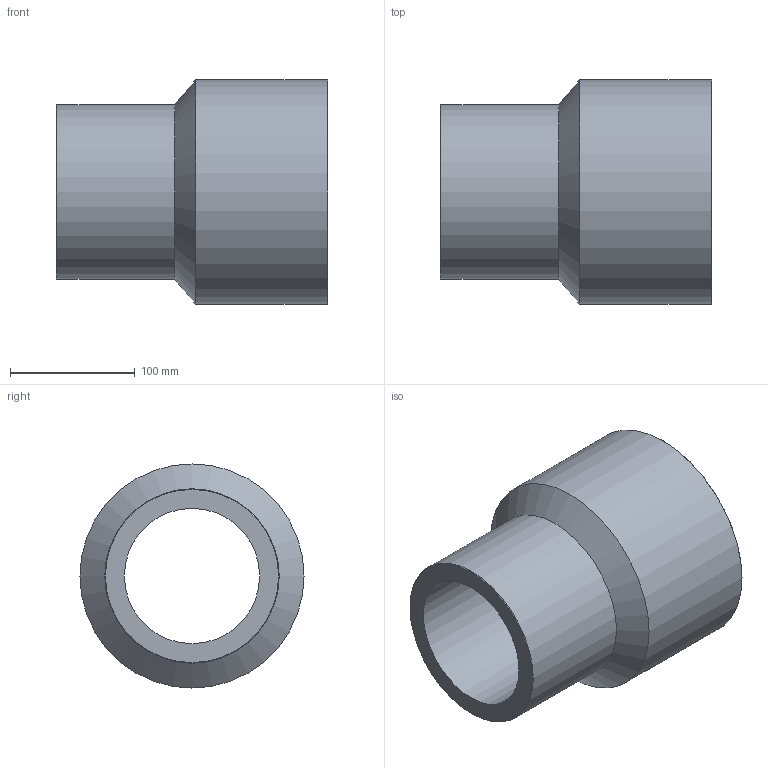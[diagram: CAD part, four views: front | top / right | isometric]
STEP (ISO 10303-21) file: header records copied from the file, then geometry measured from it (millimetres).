
FILE_DESCRIPTION(/* description */ ('Unknown'),/* implementation_level */ '2;1');
FILE_NAME(/* name */ 'RP180140G',/* time_stamp */ '2021-09-16T17:07:29+02:00',/* author */ ('Unknown'),/* organization */ ('Unknown'),/* preprocessor_version */ 'ST-DEVELOPER v16.7',/* originating_system */ 'Solid Edge',/* authorisation */ 'Unknown');
FILE_SCHEMA (('AUTOMOTIVE_DESIGN {1 0 10303 214 3 1 1}'));
Length unit declared in the file: millimetre
Products named in the file (1): RP180140G
Bounding box: 218 x 180 x 180 mm (x, y, z)
Volume: 1844426.9 mm3; surface area: 217582.6 mm2
Topology: 1 solids, 1 shells, 10 faces, 19 edges, 11 vertices
Faces by surface type: cylinder 4, cone 4, plane 2
Full cylindrical faces by diameter (mm): 108.6 x1, 139.8 x1, 140 x1, 180 x1
Entity records: 238 total; most frequent: DIRECTION 42, CARTESIAN_POINT 31, AXIS2_PLACEMENT_3D 21, ORIENTED_EDGE 20, EDGE_LOOP 20, FACE_BOUND 20, EDGE_CURVE 10, VERTEX_POINT 10
